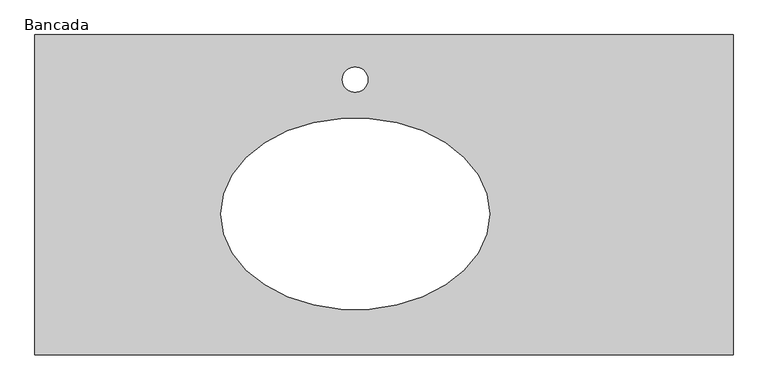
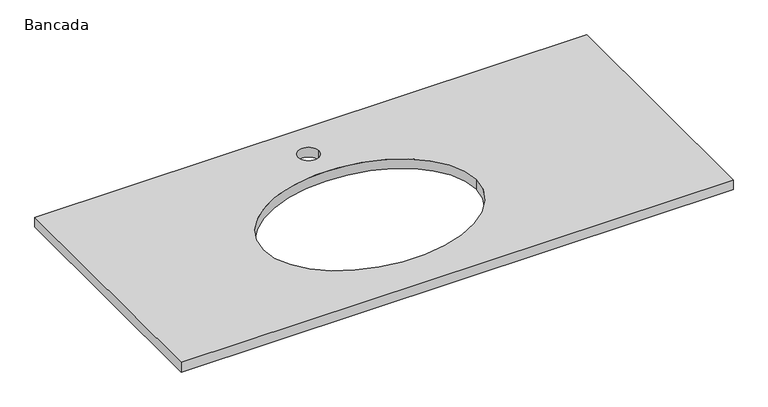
"""IFC4 building model written with IfcOpenShell, lengths in millimetres: furniture geometry, Bancada Retangular para lavatório Cuba Oval com Torneira Chanfro : Bancada."""

import ifcopenshell
import ifcopenshell.guid

model = None  # the IFC model being written
_history = None  # IfcOwnerHistory: only IFC2X3 demands one
_inside = {}  # id of a spatial element -> (the spatial element, [elements in it])
_under = {}  # id of a project, library or spatial element -> (it, [spatial elements below it])
_declared = {}  # id of a project -> (the project, [libraries it declares])
_typed = {}  # id of a type object -> (the type object, [elements of that type])
_made_of = {}  # id of a material, layer set ... -> (it, [elements and type objects made of it])


def new_model(schema):
    """Start an empty IFC model of exactly this schema.

    Asked for "IFC4X3", IfcOpenShell would pick the latest addendum, in which some entities
    have other attributes; the version numbers below select the first issue.
    IFC2X3 requires an IfcOwnerHistory on every rooted entity: one is made here for all.
    """
    global model, _history
    if schema == "IFC4X3":
        model = ifcopenshell.file(schema_version=(4, 3, 0, 0))
    else:
        model = ifcopenshell.file(schema=schema)
    _inside.clear()
    _under.clear()
    _declared.clear()
    _typed.clear()
    _made_of.clear()
    _history = None
    if model.schema == "IFC2X3":
        org = make("IfcOrganization", Name="unknown")
        user = make(
            "IfcPersonAndOrganization",
            ThePerson=make("IfcPerson", FamilyName="unknown"),
            TheOrganization=org,
        )
        app = make(
            "IfcApplication",
            ApplicationDeveloper=org,
            Version="unknown",
            ApplicationFullName="unknown",
            ApplicationIdentifier="unknown",
        )
        _history = make(
            "IfcOwnerHistory",
            OwningUser=user,
            OwningApplication=app,
            ChangeAction="ADDED",
            CreationDate=0,
        )
    return model


def make(cls, **values):
    """One entity of the class cls with the attributes given. An attribute that is None is left unset."""
    return model.create_entity(
        cls, **{name: value for name, value in values.items() if value is not None}
    )


def rooted(cls, **values):
    """An entity with a GlobalId (a new one), such as an element, a storey or a relation."""
    return make(cls, GlobalId=ifcopenshell.guid.new(), OwnerHistory=_history, **values)


def si_unit(unit_type, name, prefix=None):
    """IfcSIUnit, for example si_unit("LENGTHUNIT", "METRE", prefix="MILLI")."""
    return make("IfcSIUnit", UnitType=unit_type, Prefix=prefix, Name=name)


def assignment(units):
    """IfcUnitAssignment: the units of a project."""
    return None if units is None else make("IfcUnitAssignment", Units=units)


def point(xyz):
    """IfcCartesianPoint."""
    return None if xyz is None else make("IfcCartesianPoint", Coordinates=xyz)


def direction(xyz):
    """IfcDirection."""
    return None if xyz is None else make("IfcDirection", DirectionRatios=xyz)


def frame(location, z_axis=None, x_axis=None):
    """IfcAxis2Placement3D, a coordinate frame: its origin and axes. An axis left out is left unset."""
    return make(
        "IfcAxis2Placement3D",
        Location=point(location),
        Axis=direction(z_axis),
        RefDirection=direction(x_axis),
    )


def origin():
    """The frame at (0, 0, 0) with its axes left unset."""
    return frame((0.0, 0.0, 0.0))


def place(relative_to, where):
    """IfcLocalPlacement: puts the frame where relative to a parent placement (None: the world)."""
    return make(
        "IfcLocalPlacement", PlacementRelTo=relative_to, RelativePlacement=where
    )


def context(
    kind, dimensions, precision=None, world=None, true_north=None, identifier=None
):
    """IfcGeometricRepresentationContext, for example the 3D "Model" context."""
    return make(
        "IfcGeometricRepresentationContext",
        ContextIdentifier=identifier,
        ContextType=kind,
        CoordinateSpaceDimension=dimensions,
        Precision=precision,
        WorldCoordinateSystem=world,
        TrueNorth=true_north,
    )


def project(units=None, contexts=None):
    """IfcProject with its units and contexts."""
    return rooted(
        "IfcProject",
        Name="project",
        RepresentationContexts=contexts,
        UnitsInContext=assignment(units),
    )


def spatial(cls, under=None, at=None, **own):
    """A site, building, storey or space (cls), placed at a placement, below another one or the project."""
    s = rooted(cls, ObjectPlacement=at, **own)
    if under is not None:
        _under.setdefault(under.id(), (under, []))[1].append(s)
    return s


def polyline(points):
    """IfcPolyline through the points."""
    return make("IfcPolyline", Points=[point(p) for p in points])


def circle_curve(where, radius):
    """IfcCircle in the frame where."""
    return make("IfcCircle", Position=where, Radius=radius)


def ellipse_curve(where, semi_axis1, semi_axis2):
    """IfcEllipse in the frame where."""
    return make(
        "IfcEllipse", Position=where, SemiAxis1=semi_axis1, SemiAxis2=semi_axis2
    )


def trimmed(basis, trim1, trim2, sense, master):
    """IfcTrimmedCurve: the piece of a basis curve between two trims."""
    return make(
        "IfcTrimmedCurve",
        BasisCurve=basis,
        Trim1=trim1,
        Trim2=trim2,
        SenseAgreement=sense,
        MasterRepresentation=master,
    )


def shape(context_of_items, identifier, shape_type, items):
    """IfcShapeRepresentation: the items that make up one representation, for example the "Body"."""
    return make(
        "IfcShapeRepresentation",
        ContextOfItems=context_of_items,
        RepresentationIdentifier=identifier,
        RepresentationType=shape_type,
        Items=items,
    )


def source(mapping_origin, context_of_items, identifier, shape_type, items):
    """IfcRepresentationMap: a shape defined once, which mapped items show again and again."""
    return make(
        "IfcRepresentationMap",
        MappingOrigin=mapping_origin,
        MappedRepresentation=shape(context_of_items, identifier, shape_type, items),
    )


def transform(
    local_origin,
    x_axis=None,
    y_axis=None,
    z_axis=None,
    scale=None,
    scale2=None,
    scale3=None,
    uniform=True,
):
    """IfcCartesianTransformationOperator3D, or its non-uniform kind. x_axis, y_axis, z_axis: its Axis1, 2, 3."""
    if uniform:
        return make(
            "IfcCartesianTransformationOperator3D",
            Axis1=direction(x_axis),
            Axis2=direction(y_axis),
            LocalOrigin=point(local_origin),
            Scale=scale,
            Axis3=direction(z_axis),
        )
    return make(
        "IfcCartesianTransformationOperator3DnonUniform",
        Axis1=direction(x_axis),
        Axis2=direction(y_axis),
        LocalOrigin=point(local_origin),
        Scale=scale,
        Axis3=direction(z_axis),
        Scale2=scale2,
        Scale3=scale3,
    )


def mapped(mapping_source, mapping_target):
    """IfcMappedItem: shows the shape of a source again, moved by a transform."""
    return make(
        "IfcMappedItem", MappingSource=mapping_source, MappingTarget=mapping_target
    )


def made_of(thing, what):
    """Note that an element or type object is made of a material, layer set ...; save() writes the relation."""
    if what is not None:
        _made_of.setdefault(what.id(), (what, []))[1].append(thing)
    return thing


def element(
    cls,
    number,
    at=None,
    inside=None,
    cuts=None,
    type_object=None,
    material=None,
    context=None,
    identifier="Body",
    shape_type=None,
    held_by="IfcProductDefinitionShape",
    body=None,
    shapes=None,
    **own,
):
    """One element of the class cls, such as IfcWall. Its Tag is "e" and its number.

    at: its placement. inside: the storey or other place that contains it. cuts: it is an
    opening in that element (IfcRelVoidsElement). A single representation is given by context,
    identifier, shape_type and body (its items); several are given by shapes. held_by: the class
    of the entity that holds the representations. save() writes the other relations.
    """
    e = rooted(cls, Tag="e%d" % number, ObjectPlacement=at, **own)
    if body is not None:
        shapes = [shape(context, identifier, shape_type, body)]
    if shapes is not None:
        e.Representation = make(held_by, Representations=shapes)
    if inside is not None:
        _inside.setdefault(inside.id(), (inside, []))[1].append(e)
    if cuts is not None:
        rooted(
            "IfcRelVoidsElement", RelatingBuildingElement=cuts, RelatedOpeningElement=e
        )
    if type_object is not None:
        _typed.setdefault(type_object.id(), (type_object, []))[1].append(e)
    return made_of(e, material)


def aggregate(whole, parts):
    """IfcRelAggregates: a whole, such as a stair, and the parts it consists of."""
    return rooted("IfcRelAggregates", RelatingObject=whole, RelatedObjects=parts)


def save(model, path):
    """Write the relations noted so far, then the file.

    IfcRelAggregates (storeys below a building ...), IfcRelContainedInSpatialStructure (elements
    in a storey), IfcRelDefinesByType, IfcRelAssociatesMaterial and IfcRelDeclares: one each for
    every whole, place, type object, material and project.
    """
    for whole, parts in _under.values():
        aggregate(whole, parts)
    for where, things in _inside.values():
        rooted(
            "IfcRelContainedInSpatialStructure",
            RelatedElements=things,
            RelatingStructure=where,
        )
    for kind, things in _typed.values():
        rooted("IfcRelDefinesByType", RelatedObjects=things, RelatingType=kind)
    for what, things in _made_of.values():
        rooted("IfcRelAssociatesMaterial", RelatedObjects=things, RelatingMaterial=what)
    for by, libraries in _declared.values():
        rooted("IfcRelDeclares", RelatingContext=by, RelatedDefinitions=libraries)
    model.write(path)


def plane_surface(at):
    """IfcPlane: the flat surface through the origin of the frame at, square to its z axis."""
    return make("IfcPlane", Position=at)


def revolved_surface(curve, axis_point, axis_direction):
    """IfcSurfaceOfRevolution: the curve turned about the line through axis_point along axis_direction."""
    return make(
        "IfcSurfaceOfRevolution",
        SweptCurve=make("IfcArbitraryOpenProfileDef", ProfileType="CURVE", Curve=curve),
        AxisPosition=make("IfcAxis1Placement", Location=point(axis_point), Axis=direction(axis_direction)),
    )


def extruded_surface(curve, direction_of_extrusion, depth):
    """IfcSurfaceOfLinearExtrusion: the curve pushed along a direction by depth."""
    return make(
        "IfcSurfaceOfLinearExtrusion",
        SweptCurve=make("IfcArbitraryOpenProfileDef", ProfileType="CURVE", Curve=curve),
        ExtrudedDirection=direction(direction_of_extrusion),
        Depth=depth,
    )


def advanced_brep(points, edges, surfaces, faces):
    """IfcAdvancedBrep: a solid bounded by faces that lie on surfaces and meet in shared edges.

    An edge is (start, end): straight between two places in points (the first is 0);
    or (start, end, curve); or (start, end, curve, False) where it runs against its curve.
    A face is (place in surfaces, loops), or (place, loops, False) where it looks against
    its surface's normal. A loop lists edges by number (the first is 1), with a minus sign
    where the edge is run from its end to its start. The first loop is the outer one.
    """
    corners = [point(p) for p in points]
    vertices = [make("IfcVertexPoint", VertexGeometry=c) for c in corners]
    made = []
    for start, end, *more in edges:
        made.append(
            make(
                "IfcEdgeCurve",
                EdgeStart=vertices[start],
                EdgeEnd=vertices[end],
                EdgeGeometry=more[0] if more else make("IfcPolyline", Points=[corners[start], corners[end]]),
                SameSense=more[1] if len(more) > 1 else True,
            )
        )
    hull = []
    for where, loops, *sense in faces:
        bounds = []
        for j, loop in enumerate(loops):
            ring = [make("IfcOrientedEdge", EdgeElement=made[abs(k) - 1], Orientation=k > 0) for k in loop]
            bounds.append(
                make(
                    "IfcFaceOuterBound" if j == 0 else "IfcFaceBound",
                    Bound=make("IfcEdgeLoop", EdgeList=ring),
                    Orientation=True,
                )
            )
        hull.append(make("IfcAdvancedFace", Bounds=bounds, FaceSurface=surfaces[where], SameSense=sense[0] if sense else True))
    return make("IfcAdvancedBrep", Outer=make("IfcClosedShell", CfsFaces=hull))


def bancada_14b2be34(model_context):
    return source(origin(), model_context, "Body", "AdvancedBrep", [
        advanced_brep(
        [(514.7003208, -500.0, 1000.0), (514.7003208, 0.0, 1000.0), (-575.2996736, 0.0, 1000.0), (-575.2996736, -500.0, 1000.0), (-55.4142184, -70.0, 1000.0), (-95.4142184, -70.0, 1000.0), (-285.2996736, -279.7230202, 1000.0), (134.7003264, -279.7230202, 1000.0), (514.7003208, -500.0, 980.0), (-575.2996736, -500.0, 980.0), (-575.2996736, 0.0, 980.0), (514.7003208, 0.0, 980.0), (-95.4142184, -70.0, 980.0), (-55.4142184, -70.0, 980.0), (134.7003264, -279.7230202, 980.0), (-285.2996736, -279.7230202, 980.0)],
        [
            (0, 1),
            (1, 2),
            (2, 3),
            (3, 0),
            (4, 5, circle_curve(frame((-75.4142184, -70.0, 1000.0), z_axis=(0.0, 0.0, -1.0), x_axis=(1.0, 0.0, 0.0)), 20.0)),
            (5, 4, circle_curve(frame((-75.4142184, -70.0, 1000.0), z_axis=(0.0, 0.0, -1.0), x_axis=(1.0, 0.0, 0.0)), 20.0)),
            (6, 7, ellipse_curve(frame((-75.2996736, -279.7230202, 1000.0), z_axis=(0.0, 0.0, -1.0), x_axis=(-1.0, 0.0, 0.0)), 210.0, 150.0)),
            (7, 6, ellipse_curve(frame((-75.2996736, -279.7230202, 1000.0), z_axis=(0.0, 0.0, -1.0), x_axis=(-1.0, 0.0, 0.0)), 210.0, 150.0)),
            (8, 9),
            (9, 10),
            (10, 11),
            (11, 8),
            (12, 13, circle_curve(frame((-75.4142184, -70.0, 980.0), z_axis=(0.0, 0.0, 1.0), x_axis=(1.0, 0.0, 0.0)), 20.0)),
            (13, 12, circle_curve(frame((-75.4142184, -70.0, 980.0), z_axis=(0.0, 0.0, 1.0), x_axis=(1.0, 0.0, 0.0)), 20.0)),
            (14, 15, ellipse_curve(frame((-75.2996736, -279.7230202, 980.0), z_axis=(0.0, 0.0, 1.0), x_axis=(-1.0, 0.0, 0.0)), 210.0, 150.0)),
            (15, 14, ellipse_curve(frame((-75.2996736, -279.7230202, 980.0), z_axis=(0.0, 0.0, 1.0), x_axis=(-1.0, 0.0, 0.0)), 210.0, 150.0)),
            (0, 8),
            (11, 1),
            (10, 2),
            (9, 3),
            (12, 5),
            (4, 13),
            (14, 7),
            (6, 15),
        ],
        [
            plane_surface(frame((514.7003208, -500.0, 1000.0), z_axis=(0.0, 0.0, 1.0), x_axis=(0.0, 1.0, 0.0))),
            plane_surface(frame((514.7003208, -500.0, 980.0), z_axis=(0.0, 0.0, -1.0), x_axis=(0.0, -1.0, 0.0))),
            plane_surface(frame((514.7003208, -500.0, 1000.0), z_axis=(1.0, 0.0, 0.0), x_axis=(0.0, 0.0, -1.0))),
            plane_surface(frame((514.7003208, 0.0, 1000.0), z_axis=(0.0, 1.0, 0.0), x_axis=(0.0, 0.0, -1.0))),
            plane_surface(frame((-575.2996736, 0.0, 1000.0), z_axis=(-1.0, 0.0, 0.0), x_axis=(0.0, 0.0, -1.0))),
            plane_surface(frame((-575.2996736, -500.0, 1000.0), z_axis=(0.0, -1.0, 0.0), x_axis=(0.0, 0.0, -1.0))),
            revolved_surface(polyline([(-55.414218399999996, -70.0, 1000.0), (-55.414218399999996, -70.0, 980.0)]), (-75.4142184, -70.0, 680.0), (0.0, 0.0, 1.0)),
            extruded_surface(trimmed(ellipse_curve(frame((-75.2996736, -279.7230202, 680.0), z_axis=(0.0, 0.0, 1.0), x_axis=(-1.0, 0.0, 0.0)), 210.0, 150.0), [point((134.7003264, -279.7230202, 680.0))], [point((-285.2996736, -279.7230202, 680.0))], True, "CARTESIAN"), (0.0, 0.0, -320.0), 320.0),
            extruded_surface(trimmed(ellipse_curve(frame((-75.2996736, -279.7230202, 680.0), z_axis=(0.0, 0.0, 1.0), x_axis=(-1.0, 0.0, 0.0)), 210.0, 150.0), [point((-285.2996736, -279.7230202, 680.0))], [point((134.7003264, -279.7230202, 680.0))], True, "CARTESIAN"), (0.0, 0.0, -320.0), 320.0),
        ],
        [
            (0, [[1, 2, 3, 4], [5, 6], [7, 8]]),
            (1, [[9, 10, 11, 12], [13, 14], [15, 16]]),
            (2, [[-1, 17, -12, 18]]),
            (3, [[-2, -18, -11, 19]]),
            (4, [[-3, -19, -10, 20]]),
            (5, [[-4, -20, -9, -17]]),
            (6, [[21, -5, 22, -13]]),
            (6, [[-21, -14, -22, -6]]),
            (7, [[23, -7, 24, -15]]),
            (8, [[-23, -16, -24, -8]]),
        ],
    ),
    ])


if __name__ == "__main__":
    model = new_model("IFC4")
    model_context = context("Model", 3, world=origin())
    ifc_project = project(units=[si_unit("LENGTHUNIT", "METRE", prefix="MILLI")], contexts=[model_context])
    site = spatial("IfcSite", under=ifc_project)
    building = spatial("IfcBuilding", under=site)
    placement = place(None, origin())
    bancada_shape = bancada_14b2be34(model_context)
    element("IfcFurniture", 1, ObjectType="Bancada Retangular para lavatório Cuba Oval com Torneira Chanfro : Bancada", at=placement, inside=building, context=model_context, shape_type="MappedRepresentation", body=[
        mapped(bancada_shape, transform((0.0, 0.0, 0.0), x_axis=(1.0, 0.0, 0.0), y_axis=(0.0, 1.0, 0.0), z_axis=(0.0, 0.0, 1.0))),
    ])
    save(model, "model.ifc")
